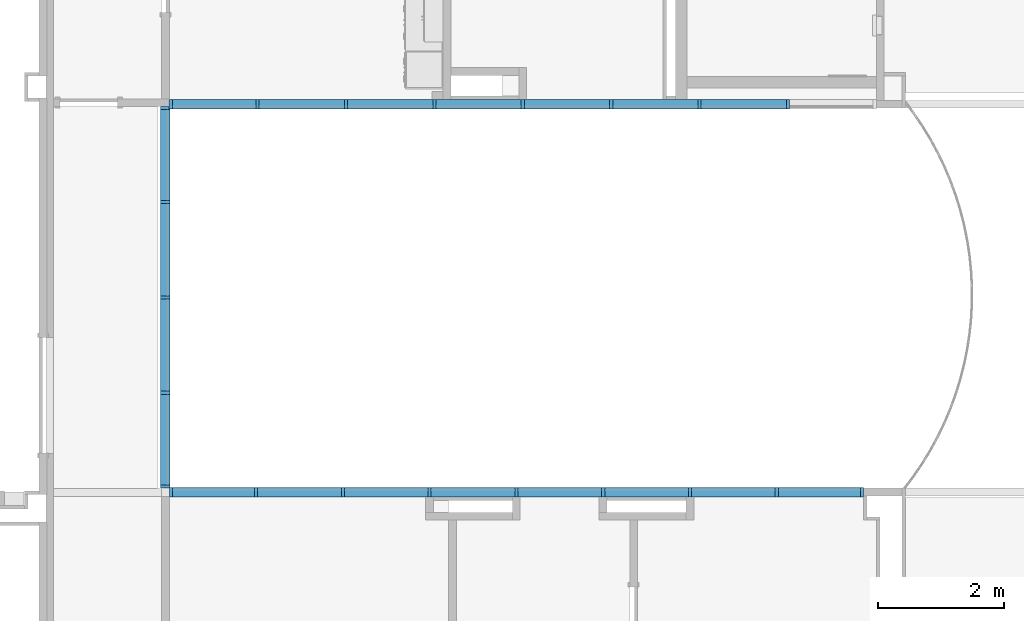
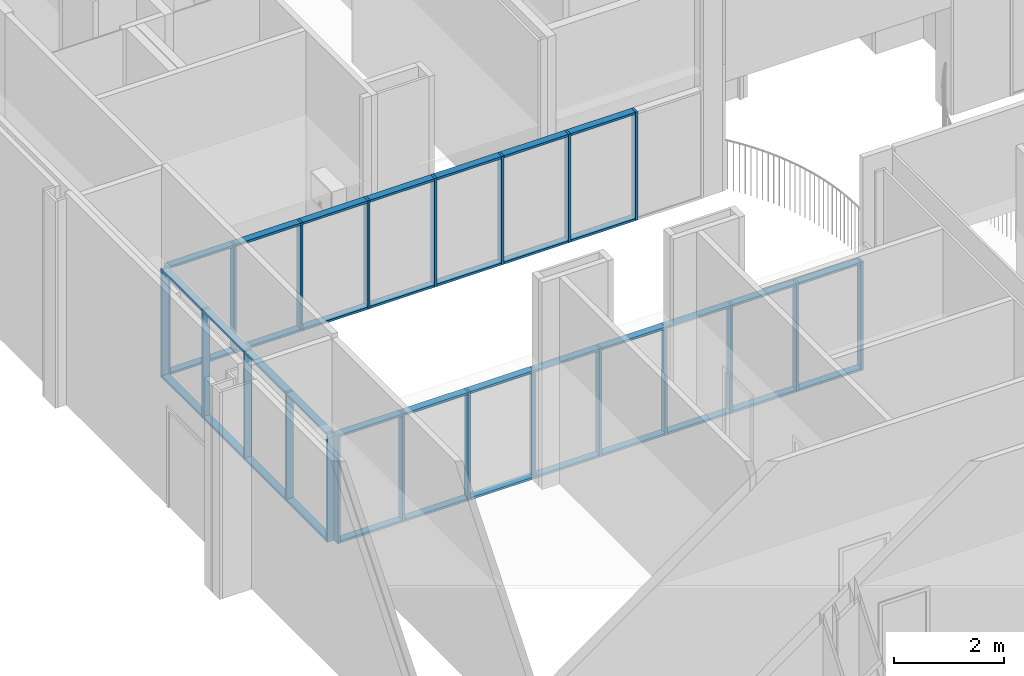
# One storey, part 1 of 45: 60 members, 3 elements without a shape of their own.
"""IFC2X3 building model written with IfcOpenShell, lengths in metres."""

from ifc_helpers import new_model, entity, si_unit, converted_unit, frame, origin, origin_2d_with_axis, place, context, project, spatial, rectangle, extrude, source, transform, mapped, material, type_object, type_shapes, element, aggregate, save


model = new_model("IFC2X3")

# Units and contexts
model_context = context("Model", 3, precision=1e-09, world=origin())
plan_context = context("Plan", 3, precision=1e-09, world=origin())
ifc_project = project(units=[si_unit("LENGTHUNIT", "METRE"), si_unit("AREAUNIT", "SQUARE_METRE"), si_unit("VOLUMEUNIT", "CUBIC_METRE"), converted_unit("PLANEANGLEUNIT", "DEGREE", entity("IfcRatioMeasure", 0.01745329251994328), si_unit("PLANEANGLEUNIT", "RADIAN"), dimensions=[0, 0, 0, 0, 0, 0, 0]), si_unit("TIMEUNIT", "SECOND")], contexts=[model_context, plan_context])

# Site, building, storey
site_placement = place(None, origin())
site = spatial("IfcSite", under=ifc_project, at=site_placement, Name="Default", CompositionType="ELEMENT")
building_placement = place(site_placement, origin())
building = spatial("IfcBuilding", under=site, at=building_placement, CompositionType="ELEMENT")
storey_placement = place(building_placement, frame((0.0, 0.0, 4.570000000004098)))
storey = spatial("IfcBuildingStorey", under=building, at=storey_placement, Name="Second Floor", CompositionType="ELEMENT", Elevation=4.570000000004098)

# Curtain wall, members
curtain_wall_1_placement = place(storey_placement, origin())
curtain_wall_1 = element("IfcCurtainWall", 1, at=curtain_wall_1_placement, inside=storey, Name="Curtain Wall:Storefront", ObjectType="Curtain Wall:Storefront")
ifc_material = material(Name="Metal - Aluminium")
member_type_1 = type_object("IfcMemberType", Name="50 x 150mm", PredefinedType="MULLION")
shared_shape_1 = source(origin(), model_context, "Body", "SweptSolid", [
    extrude(rectangle(XDim=0.05, YDim=0.15, at=origin_2d_with_axis()), frame((0.0, 0.0, -2.399999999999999), z_axis=(0.0, 0.0, 1.0), x_axis=(-1.0, 0.0, 0.0)), (0.0, 0.0, 1.0), 2.399999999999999),
])
type_shapes(member_type_1, [shared_shape_1])
member_1_placement = place(storey_placement, frame((-25.88950000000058, 34.77180159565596, 0.0), z_axis=(0.0, 0.0, -1.0), x_axis=(-1.0, 0.0, 0.0)))
member_1 = element("IfcMember", 2, at=member_1_placement, type_object=member_type_1, material=ifc_material, Name="Rectangular Mullion:50 x 150mm:50 x 150mm", ObjectType="50 x 150mm", context=model_context, shape_type="MappedRepresentation", body=[
    mapped(shared_shape_1, transform((0.0, 0.0, 0.0), scale=1.0)),
])
member_2_placement = place(storey_placement, frame((-30.0891250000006, 34.77180159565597, 0.0), z_axis=(0.0, 0.0, -1.0), x_axis=(-1.0, 0.0, 0.0)))
member_2 = element("IfcMember", 3, at=member_2_placement, type_object=member_type_1, material=ifc_material, Name="Rectangular Mullion:50 x 150mm:50 x 150mm", ObjectType="50 x 150mm", context=model_context, shape_type="MappedRepresentation", body=[
    mapped(shared_shape_1, transform((0.0, 0.0, 0.0), scale=1.0)),
])
member_3_placement = place(storey_placement, frame((-21.68987500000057, 34.77180159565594, 0.0), z_axis=(0.0, 0.0, -1.0), x_axis=(-1.0, 0.0, 0.0)))
member_3 = element("IfcMember", 4, at=member_3_placement, type_object=member_type_1, material=ifc_material, Name="Rectangular Mullion:50 x 150mm:50 x 150mm", ObjectType="50 x 150mm", context=model_context, shape_type="MappedRepresentation", body=[
    mapped(shared_shape_1, transform((0.0, 0.0, 0.0), scale=1.0)),
])
member_4_placement = place(storey_placement, frame((-27.28937500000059, 34.77180159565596, 0.0), z_axis=(0.0, 0.0, -1.0), x_axis=(-1.0, 0.0, 0.0)))
member_4 = element("IfcMember", 5, at=member_4_placement, type_object=member_type_1, material=ifc_material, Name="Rectangular Mullion:50 x 150mm:50 x 150mm", ObjectType="50 x 150mm", context=model_context, shape_type="MappedRepresentation", body=[
    mapped(shared_shape_1, transform((0.0, 0.0, 0.0), scale=1.0)),
])
member_5_placement = place(storey_placement, frame((-24.48962500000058, 34.77180159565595, 0.0), z_axis=(0.0, 0.0, -1.0), x_axis=(-1.0, 0.0, 0.0)))
member_5 = element("IfcMember", 6, at=member_5_placement, type_object=member_type_1, material=ifc_material, Name="Rectangular Mullion:50 x 150mm:50 x 150mm", ObjectType="50 x 150mm", context=model_context, shape_type="MappedRepresentation", body=[
    mapped(shared_shape_1, transform((0.0, 0.0, 0.0), scale=1.0)),
])
member_6_placement = place(storey_placement, frame((-23.08975000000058, 34.77180159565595, 0.0), z_axis=(0.0, 0.0, -1.0), x_axis=(-1.0, 0.0, 0.0)))
member_6 = element("IfcMember", 7, at=member_6_placement, type_object=member_type_1, material=ifc_material, Name="Rectangular Mullion:50 x 150mm:50 x 150mm", ObjectType="50 x 150mm", context=model_context, shape_type="MappedRepresentation", body=[
    mapped(shared_shape_1, transform((0.0, 0.0, 0.0), scale=1.0)),
])
member_7_placement = place(storey_placement, frame((-28.6892500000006, 34.77180159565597, 0.0), z_axis=(0.0, 0.0, -1.0), x_axis=(-1.0, 0.0, 0.0)))
member_7 = element("IfcMember", 8, at=member_7_placement, type_object=member_type_1, material=ifc_material, Name="Rectangular Mullion:50 x 150mm:50 x 150mm", ObjectType="50 x 150mm", context=model_context, shape_type="MappedRepresentation", body=[
    mapped(shared_shape_1, transform((0.0, 0.0, 0.0), scale=1.0)),
])

# Curtain wall, member
curtain_wall_2_placement = place(storey_placement, origin())
curtain_wall_2 = element("IfcCurtainWall", 9, at=curtain_wall_2_placement, inside=storey, Name="Curtain Wall:Storefront", ObjectType="Curtain Wall:Storefront")
member_8_placement = place(storey_placement, frame((-31.55100000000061, 30.20123952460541, 0.0), z_axis=(0.0, 0.0, -1.0), x_axis=(0.0, -1.0, 0.0)))
member_8 = element("IfcMember", 10, at=member_8_placement, type_object=member_type_1, material=ifc_material, Name="Rectangular Mullion:50 x 150mm:50 x 150mm", ObjectType="50 x 150mm", context=model_context, shape_type="MappedRepresentation", body=[
    mapped(shared_shape_1, transform((0.0, 0.0, 0.0), scale=1.0)),
])

# Curtain wall, members
curtain_wall_3_placement = place(storey_placement, origin())
curtain_wall_3 = element("IfcCurtainWall", 11, at=curtain_wall_3_placement, inside=storey, Name="Curtain Wall:Storefront", ObjectType="Curtain Wall:Storefront")
member_type_2 = type_object("IfcMemberType", Name="50 x 150mm", PredefinedType="MULLION")
type_shapes(member_type_2, [shared_shape_1])
member_9_placement = place(storey_placement, frame((-25.99050000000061, 28.62819840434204, 0.0), z_axis=(0.0, 0.0, -1.0), x_axis=(-1.0, 0.0, 0.0)))
member_9 = element("IfcMember", 12, at=member_9_placement, type_object=member_type_2, material=ifc_material, Name="Rectangular Mullion:50 x 150mm:50 x 150mm", ObjectType="50 x 150mm", context=model_context, shape_type="MappedRepresentation", body=[
    mapped(shared_shape_1, transform((0.0, 0.0, 0.0), scale=1.0)),
])
member_10_placement = place(storey_placement, frame((-30.11212500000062, 28.62819840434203, 0.0), z_axis=(0.0, 0.0, -1.0), x_axis=(-1.0, 0.0, 0.0)))
member_10 = element("IfcMember", 13, at=member_10_placement, type_object=member_type_2, material=ifc_material, Name="Rectangular Mullion:50 x 150mm:50 x 150mm", ObjectType="50 x 150mm", context=model_context, shape_type="MappedRepresentation", body=[
    mapped(shared_shape_1, transform((0.0, 0.0, 0.0), scale=1.0)),
])
member_11_placement = place(storey_placement, frame((-24.61662500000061, 28.62819840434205, 0.0), z_axis=(0.0, 0.0, -1.0), x_axis=(-1.0, 0.0, 0.0)))
member_11 = element("IfcMember", 14, at=member_11_placement, type_object=member_type_2, material=ifc_material, Name="Rectangular Mullion:50 x 150mm:50 x 150mm", ObjectType="50 x 150mm", context=model_context, shape_type="MappedRepresentation", body=[
    mapped(shared_shape_1, transform((0.0, 0.0, 0.0), scale=1.0)),
])

# Member
member_12_placement = place(storey_placement, frame((-31.55100000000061, 33.22332176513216, 0.0), z_axis=(0.0, 0.0, -1.0), x_axis=(0.0, -1.0, 0.0)))
member_12 = element("IfcMember", 15, at=member_12_placement, type_object=member_type_1, material=ifc_material, Name="Rectangular Mullion:50 x 150mm:50 x 150mm", ObjectType="50 x 150mm", context=model_context, shape_type="MappedRepresentation", body=[
    mapped(shared_shape_1, transform((0.0, 0.0, 0.0), scale=1.0)),
])

member_13_placement = place(storey_placement, frame((-21.86887500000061, 28.62819840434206, 0.0), z_axis=(0.0, 0.0, -1.0), x_axis=(-1.0, 0.0, 0.0)))
member_13 = element("IfcMember", 16, at=member_13_placement, type_object=member_type_2, material=ifc_material, Name="Rectangular Mullion:50 x 150mm:50 x 150mm", ObjectType="50 x 150mm", context=model_context, shape_type="MappedRepresentation", body=[
    mapped(shared_shape_1, transform((0.0, 0.0, 0.0), scale=1.0)),
])

member_14_placement = place(storey_placement, frame((-27.36437500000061, 28.62819840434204, 0.0), z_axis=(0.0, 0.0, -1.0), x_axis=(-1.0, 0.0, 0.0)))
member_14 = element("IfcMember", 17, at=member_14_placement, type_object=member_type_2, material=ifc_material, Name="Rectangular Mullion:50 x 150mm:50 x 150mm", ObjectType="50 x 150mm", context=model_context, shape_type="MappedRepresentation", body=[
    mapped(shared_shape_1, transform((0.0, 0.0, 0.0), scale=1.0)),
])

member_15_placement = place(storey_placement, frame((-31.55100000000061, 31.71228064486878, 0.0), z_axis=(0.0, 0.0, -1.0), x_axis=(0.0, -1.0, 0.0)))
member_15 = element("IfcMember", 18, at=member_15_placement, type_object=member_type_1, material=ifc_material, Name="Rectangular Mullion:50 x 150mm:50 x 150mm", ObjectType="50 x 150mm", context=model_context, shape_type="MappedRepresentation", body=[
    mapped(shared_shape_1, transform((0.0, 0.0, 0.0), scale=1.0)),
])

member_16_placement = place(storey_placement, frame((-23.24275000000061, 28.62819840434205, 0.0), z_axis=(0.0, 0.0, -1.0), x_axis=(-1.0, 0.0, 0.0)))
member_16 = element("IfcMember", 19, at=member_16_placement, type_object=member_type_2, material=ifc_material, Name="Rectangular Mullion:50 x 150mm:50 x 150mm", ObjectType="50 x 150mm", context=model_context, shape_type="MappedRepresentation", body=[
    mapped(shared_shape_1, transform((0.0, 0.0, 0.0), scale=1.0)),
])

member_17_placement = place(storey_placement, frame((-28.73825000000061, 28.62819840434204, 0.0), z_axis=(0.0, 0.0, -1.0), x_axis=(-1.0, 0.0, 0.0)))
member_17 = element("IfcMember", 20, at=member_17_placement, type_object=member_type_2, material=ifc_material, Name="Rectangular Mullion:50 x 150mm:50 x 150mm", ObjectType="50 x 150mm", context=model_context, shape_type="MappedRepresentation", body=[
    mapped(shared_shape_1, transform((0.0, 0.0, 0.0), scale=1.0)),
])

member_type_3 = type_object("IfcMemberType", Name="50 x 150mm", PredefinedType="MULLION")
shared_shape_2 = source(origin(), model_context, "Body", "SweptSolid", [
    extrude(rectangle(XDim=0.05, YDim=0.15, at=origin_2d_with_axis()), frame((-0.025, 0.0, -2.399999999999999), z_axis=(0.0, 0.0, 1.0), x_axis=(-1.0, 0.0, 0.0)), (0.0, 0.0, 1.0), 2.399999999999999),
])
type_shapes(member_type_3, [shared_shape_2])
member_18_placement = place(storey_placement, frame((-31.55100000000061, 28.69019840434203, 0.0), z_axis=(0.0, 0.0, -1.0), x_axis=(0.0, -1.0, 0.0)))
member_18 = element("IfcMember", 21, at=member_18_placement, type_object=member_type_3, material=ifc_material, Name="Rectangular Mullion:50 x 150mm:50 x 150mm", ObjectType="50 x 150mm", context=model_context, shape_type="MappedRepresentation", body=[
    mapped(shared_shape_2, transform((0.0, 0.0, 0.0), scale=1.0)),
])

member_19_placement = place(storey_placement, frame((-31.48900000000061, 34.77180159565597, 0.0), z_axis=(0.0, 0.0, -1.0), x_axis=(-1.0, 0.0, 0.0)))
member_19 = element("IfcMember", 22, at=member_19_placement, type_object=member_type_3, material=ifc_material, Name="Rectangular Mullion:50 x 150mm:50 x 150mm", ObjectType="50 x 150mm", context=model_context, shape_type="MappedRepresentation", body=[
    mapped(shared_shape_2, transform((0.0, 0.0, 0.0), scale=1.0)),
])

member_type_4 = type_object("IfcMemberType", Name="50 x 150mm", PredefinedType="MULLION")
type_shapes(member_type_4, [shared_shape_2])
member_20_placement = place(storey_placement, frame((-20.49500000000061, 28.62819840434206, 2.399999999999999)))
member_20 = element("IfcMember", 23, at=member_20_placement, type_object=member_type_4, material=ifc_material, Name="Rectangular Mullion:50 x 150mm:50 x 150mm", ObjectType="50 x 150mm", context=model_context, shape_type="MappedRepresentation", body=[
    mapped(shared_shape_2, transform((0.0, 0.0, 0.0), scale=1.0)),
])

member_type_5 = type_object("IfcMemberType", Name="50 x 150mm", PredefinedType="MULLION")
type_shapes(member_type_5, [shared_shape_2])
member_21_placement = place(storey_placement, frame((-31.48600000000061, 28.62819840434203, 0.0), z_axis=(0.0, 0.0, -1.0), x_axis=(-1.0, 0.0, 0.0)))
member_21 = element("IfcMember", 24, at=member_21_placement, type_object=member_type_5, material=ifc_material, Name="Rectangular Mullion:50 x 150mm:50 x 150mm", ObjectType="50 x 150mm", context=model_context, shape_type="MappedRepresentation", body=[
    mapped(shared_shape_2, transform((0.0, 0.0, 0.0), scale=1.0)),
])

member_type_6 = type_object("IfcMemberType", Name="50 x 150mm", PredefinedType="MULLION")
shared_shape_3 = source(origin(), model_context, "Body", "SweptSolid", [
    extrude(rectangle(XDim=0.05, YDim=0.15, at=origin_2d_with_axis()), frame((-0.025, 0.0, -1.323875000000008), z_axis=(0.0, 0.0, 1.0), x_axis=(-1.0, 0.0, 0.0)), (0.0, 0.0, 1.0), 1.323875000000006),
])
type_shapes(member_type_6, [shared_shape_3])
member_22_placement = place(storey_placement, frame((-27.38937500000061, 28.62819840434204, 0.0), z_axis=(1.0, 0.0, 0.0), x_axis=(0.0, 0.0, -1.0)))
member_22 = element("IfcMember", 25, at=member_22_placement, type_object=member_type_6, material=ifc_material, Name="Rectangular Mullion:50 x 150mm:50 x 150mm", ObjectType="50 x 150mm", context=model_context, shape_type="MappedRepresentation", body=[
    mapped(shared_shape_3, transform((0.0, 0.0, 0.0), scale=1.0)),
])

member_23_placement = place(storey_placement, frame((-23.26775000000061, 28.62819840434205, 0.0), z_axis=(1.0, 0.0, 0.0), x_axis=(0.0, 0.0, -1.0)))
member_23 = element("IfcMember", 26, at=member_23_placement, type_object=member_type_6, material=ifc_material, Name="Rectangular Mullion:50 x 150mm:50 x 150mm", ObjectType="50 x 150mm", context=model_context, shape_type="MappedRepresentation", body=[
    mapped(shared_shape_3, transform((0.0, 0.0, 0.0), scale=1.0)),
])

member_24_placement = place(storey_placement, frame((-26.0155000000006, 28.62819840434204, 0.0), z_axis=(1.0, 0.0, 0.0), x_axis=(0.0, 0.0, -1.0)))
member_24 = element("IfcMember", 27, at=member_24_placement, type_object=member_type_6, material=ifc_material, Name="Rectangular Mullion:50 x 150mm:50 x 150mm", ObjectType="50 x 150mm", context=model_context, shape_type="MappedRepresentation", body=[
    mapped(shared_shape_3, transform((0.0, 0.0, 0.0), scale=1.0)),
])

member_25_placement = place(storey_placement, frame((-28.76325000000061, 28.62819840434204, 0.0), z_axis=(1.0, 0.0, 0.0), x_axis=(0.0, 0.0, -1.0)))
member_25 = element("IfcMember", 28, at=member_25_placement, type_object=member_type_6, material=ifc_material, Name="Rectangular Mullion:50 x 150mm:50 x 150mm", ObjectType="50 x 150mm", context=model_context, shape_type="MappedRepresentation", body=[
    mapped(shared_shape_3, transform((0.0, 0.0, 0.0), scale=1.0)),
])

member_26_placement = place(storey_placement, frame((-21.89387500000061, 28.62819840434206, 0.0), z_axis=(1.0, 0.0, 0.0), x_axis=(0.0, 0.0, -1.0)))
member_26 = element("IfcMember", 29, at=member_26_placement, type_object=member_type_6, material=ifc_material, Name="Rectangular Mullion:50 x 150mm:50 x 150mm", ObjectType="50 x 150mm", context=model_context, shape_type="MappedRepresentation", body=[
    mapped(shared_shape_3, transform((0.0, 0.0, 0.0), scale=1.0)),
])

member_27_placement = place(storey_placement, frame((-24.64162500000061, 28.62819840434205, 0.0), z_axis=(1.0, 0.0, 0.0), x_axis=(0.0, 0.0, -1.0)))
member_27 = element("IfcMember", 30, at=member_27_placement, type_object=member_type_6, material=ifc_material, Name="Rectangular Mullion:50 x 150mm:50 x 150mm", ObjectType="50 x 150mm", context=model_context, shape_type="MappedRepresentation", body=[
    mapped(shared_shape_3, transform((0.0, 0.0, 0.0), scale=1.0)),
])

member_type_7 = type_object("IfcMemberType", Name="50 x 150mm", PredefinedType="MULLION")
shared_shape_4 = source(origin(), model_context, "Body", "SweptSolid", [
    extrude(rectangle(XDim=0.05, YDim=0.15, at=origin_2d_with_axis()), frame((-0.025, 0.0, -1.323875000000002), z_axis=(0.0, 0.0, 1.0), x_axis=(-1.0, 0.0, 0.0)), (0.0, 0.0, 1.0), 1.323875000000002),
])
type_shapes(member_type_7, [shared_shape_4])
member_28_placement = place(storey_placement, frame((-27.33937500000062, 28.62819840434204, 2.399999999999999), z_axis=(-1.0, 0.0, 0.0), x_axis=(0.0, 0.0, 1.0)))
member_28 = element("IfcMember", 31, at=member_28_placement, type_object=member_type_7, material=ifc_material, Name="Rectangular Mullion:50 x 150mm:50 x 150mm", ObjectType="50 x 150mm", context=model_context, shape_type="MappedRepresentation", body=[
    mapped(shared_shape_4, transform((0.0, 0.0, 0.0), scale=1.0)),
])

member_29_placement = place(storey_placement, frame((-28.71325000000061, 28.62819840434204, 2.399999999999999), z_axis=(-1.0, 0.0, 0.0), x_axis=(0.0, 0.0, 1.0)))
member_29 = element("IfcMember", 32, at=member_29_placement, type_object=member_type_7, material=ifc_material, Name="Rectangular Mullion:50 x 150mm:50 x 150mm", ObjectType="50 x 150mm", context=model_context, shape_type="MappedRepresentation", body=[
    mapped(shared_shape_4, transform((0.0, 0.0, 0.0), scale=1.0)),
])

member_30_placement = place(storey_placement, frame((-25.96550000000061, 28.62819840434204, 2.399999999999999), z_axis=(-1.0, 0.0, 0.0), x_axis=(0.0, 0.0, 1.0)))
member_30 = element("IfcMember", 33, at=member_30_placement, type_object=member_type_7, material=ifc_material, Name="Rectangular Mullion:50 x 150mm:50 x 150mm", ObjectType="50 x 150mm", context=model_context, shape_type="MappedRepresentation", body=[
    mapped(shared_shape_4, transform((0.0, 0.0, 0.0), scale=1.0)),
])

member_31_placement = place(storey_placement, frame((-23.21775000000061, 28.62819840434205, 2.399999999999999), z_axis=(-1.0, 0.0, 0.0), x_axis=(0.0, 0.0, 1.0)))
member_31 = element("IfcMember", 34, at=member_31_placement, type_object=member_type_7, material=ifc_material, Name="Rectangular Mullion:50 x 150mm:50 x 150mm", ObjectType="50 x 150mm", context=model_context, shape_type="MappedRepresentation", body=[
    mapped(shared_shape_4, transform((0.0, 0.0, 0.0), scale=1.0)),
])

member_32_placement = place(storey_placement, frame((-30.08712500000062, 28.62819840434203, 2.399999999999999), z_axis=(-1.0, 0.0, 0.0), x_axis=(0.0, 0.0, 1.0)))
member_32 = element("IfcMember", 35, at=member_32_placement, type_object=member_type_7, material=ifc_material, Name="Rectangular Mullion:50 x 150mm:50 x 150mm", ObjectType="50 x 150mm", context=model_context, shape_type="MappedRepresentation", body=[
    mapped(shared_shape_4, transform((0.0, 0.0, 0.0), scale=1.0)),
])

member_33_placement = place(storey_placement, frame((-24.59162500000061, 28.62819840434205, 2.399999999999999), z_axis=(-1.0, 0.0, 0.0), x_axis=(0.0, 0.0, 1.0)))
member_33 = element("IfcMember", 36, at=member_33_placement, type_object=member_type_7, material=ifc_material, Name="Rectangular Mullion:50 x 150mm:50 x 150mm", ObjectType="50 x 150mm", context=model_context, shape_type="MappedRepresentation", body=[
    mapped(shared_shape_4, transform((0.0, 0.0, 0.0), scale=1.0)),
])

member_type_8 = type_object("IfcMemberType", Name="50 x 150mm", PredefinedType="MULLION")
shared_shape_5 = source(origin(), model_context, "Body", "SweptSolid", [
    extrude(rectangle(XDim=0.05, YDim=0.15, at=origin_2d_with_axis()), frame((-0.025, 0.0, -1.349875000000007), z_axis=(0.0, 0.0, 1.0), x_axis=(-1.0, 0.0, 0.0)), (0.0, 0.0, 1.0), 1.349875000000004),
])
type_shapes(member_type_8, [shared_shape_5])
member_34_placement = place(storey_placement, frame((-23.06475000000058, 34.77180159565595, 2.399999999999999), z_axis=(-1.0, 0.0, 0.0), x_axis=(0.0, 0.0, 1.0)))
member_34 = element("IfcMember", 37, at=member_34_placement, type_object=member_type_8, material=ifc_material, Name="Rectangular Mullion:50 x 150mm:50 x 150mm", ObjectType="50 x 150mm", context=model_context, shape_type="MappedRepresentation", body=[
    mapped(shared_shape_5, transform((0.0, 0.0, 0.0), scale=1.0)),
])

member_35_placement = place(storey_placement, frame((-24.46462500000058, 34.77180159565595, 2.399999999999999), z_axis=(-1.0, 0.0, 0.0), x_axis=(0.0, 0.0, 1.0)))
member_35 = element("IfcMember", 38, at=member_35_placement, type_object=member_type_8, material=ifc_material, Name="Rectangular Mullion:50 x 150mm:50 x 150mm", ObjectType="50 x 150mm", context=model_context, shape_type="MappedRepresentation", body=[
    mapped(shared_shape_5, transform((0.0, 0.0, 0.0), scale=1.0)),
])

member_36_placement = place(storey_placement, frame((-25.86450000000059, 34.77180159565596, 2.399999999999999), z_axis=(-1.0, 0.0, 0.0), x_axis=(0.0, 0.0, 1.0)))
member_36 = element("IfcMember", 39, at=member_36_placement, type_object=member_type_8, material=ifc_material, Name="Rectangular Mullion:50 x 150mm:50 x 150mm", ObjectType="50 x 150mm", context=model_context, shape_type="MappedRepresentation", body=[
    mapped(shared_shape_5, transform((0.0, 0.0, 0.0), scale=1.0)),
])

member_37_placement = place(storey_placement, frame((-28.6642500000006, 34.77180159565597, 2.399999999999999), z_axis=(-1.0, 0.0, 0.0), x_axis=(0.0, 0.0, 1.0)))
member_37 = element("IfcMember", 40, at=member_37_placement, type_object=member_type_8, material=ifc_material, Name="Rectangular Mullion:50 x 150mm:50 x 150mm", ObjectType="50 x 150mm", context=model_context, shape_type="MappedRepresentation", body=[
    mapped(shared_shape_5, transform((0.0, 0.0, 0.0), scale=1.0)),
])

member_38_placement = place(storey_placement, frame((-30.0641250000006, 34.77180159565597, 2.399999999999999), z_axis=(-1.0, 0.0, 0.0), x_axis=(0.0, 0.0, 1.0)))
member_38 = element("IfcMember", 41, at=member_38_placement, type_object=member_type_8, material=ifc_material, Name="Rectangular Mullion:50 x 150mm:50 x 150mm", ObjectType="50 x 150mm", context=model_context, shape_type="MappedRepresentation", body=[
    mapped(shared_shape_5, transform((0.0, 0.0, 0.0), scale=1.0)),
])

member_39_placement = place(storey_placement, frame((-27.26437500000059, 34.77180159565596, 2.399999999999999), z_axis=(-1.0, 0.0, 0.0), x_axis=(0.0, 0.0, 1.0)))
member_39 = element("IfcMember", 42, at=member_39_placement, type_object=member_type_8, material=ifc_material, Name="Rectangular Mullion:50 x 150mm:50 x 150mm", ObjectType="50 x 150mm", context=model_context, shape_type="MappedRepresentation", body=[
    mapped(shared_shape_5, transform((0.0, 0.0, 0.0), scale=1.0)),
])

member_type_9 = type_object("IfcMemberType", Name="50 x 150mm", PredefinedType="MULLION")
shared_shape_6 = source(origin(), model_context, "Body", "SweptSolid", [
    extrude(rectangle(XDim=0.05, YDim=0.15, at=origin_2d_with_axis()), frame((-0.025, 0.0, -1.349875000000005), z_axis=(0.0, 0.0, 1.0), x_axis=(-1.0, 0.0, 0.0)), (0.0, 0.0, 1.0), 1.349875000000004),
])
type_shapes(member_type_9, [shared_shape_6])
member_40_placement = place(storey_placement, frame((-28.71425000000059, 34.77180159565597, 0.0), z_axis=(1.0, 0.0, 0.0), x_axis=(0.0, 0.0, -1.0)))
member_40 = element("IfcMember", 43, at=member_40_placement, type_object=member_type_9, material=ifc_material, Name="Rectangular Mullion:50 x 150mm:50 x 150mm", ObjectType="50 x 150mm", context=model_context, shape_type="MappedRepresentation", body=[
    mapped(shared_shape_6, transform((0.0, 0.0, 0.0), scale=1.0)),
])

member_41_placement = place(storey_placement, frame((-23.11475000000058, 34.77180159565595, 0.0), z_axis=(1.0, 0.0, 0.0), x_axis=(0.0, 0.0, -1.0)))
member_41 = element("IfcMember", 44, at=member_41_placement, type_object=member_type_9, material=ifc_material, Name="Rectangular Mullion:50 x 150mm:50 x 150mm", ObjectType="50 x 150mm", context=model_context, shape_type="MappedRepresentation", body=[
    mapped(shared_shape_6, transform((0.0, 0.0, 0.0), scale=1.0)),
])

member_42_placement = place(storey_placement, frame((-27.31437500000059, 34.77180159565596, 0.0), z_axis=(1.0, 0.0, 0.0), x_axis=(0.0, 0.0, -1.0)))
member_42 = element("IfcMember", 45, at=member_42_placement, type_object=member_type_9, material=ifc_material, Name="Rectangular Mullion:50 x 150mm:50 x 150mm", ObjectType="50 x 150mm", context=model_context, shape_type="MappedRepresentation", body=[
    mapped(shared_shape_6, transform((0.0, 0.0, 0.0), scale=1.0)),
])

member_43_placement = place(storey_placement, frame((-24.51462500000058, 34.77180159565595, 0.0), z_axis=(1.0, 0.0, 0.0), x_axis=(0.0, 0.0, -1.0)))
member_43 = element("IfcMember", 46, at=member_43_placement, type_object=member_type_9, material=ifc_material, Name="Rectangular Mullion:50 x 150mm:50 x 150mm", ObjectType="50 x 150mm", context=model_context, shape_type="MappedRepresentation", body=[
    mapped(shared_shape_6, transform((0.0, 0.0, 0.0), scale=1.0)),
])

member_44_placement = place(storey_placement, frame((-25.91450000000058, 34.77180159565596, 0.0), z_axis=(1.0, 0.0, 0.0), x_axis=(0.0, 0.0, -1.0)))
member_44 = element("IfcMember", 47, at=member_44_placement, type_object=member_type_9, material=ifc_material, Name="Rectangular Mullion:50 x 150mm:50 x 150mm", ObjectType="50 x 150mm", context=model_context, shape_type="MappedRepresentation", body=[
    mapped(shared_shape_6, transform((0.0, 0.0, 0.0), scale=1.0)),
])

member_45_placement = place(storey_placement, frame((-21.71487500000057, 34.77180159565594, 0.0), z_axis=(1.0, 0.0, 0.0), x_axis=(0.0, 0.0, -1.0)))
member_45 = element("IfcMember", 48, at=member_45_placement, type_object=member_type_9, material=ifc_material, Name="Rectangular Mullion:50 x 150mm:50 x 150mm", ObjectType="50 x 150mm", context=model_context, shape_type="MappedRepresentation", body=[
    mapped(shared_shape_6, transform((0.0, 0.0, 0.0), scale=1.0)),
])

member_type_10 = type_object("IfcMemberType", Name="50 x 150mm", PredefinedType="MULLION")
shared_shape_7 = source(origin(), model_context, "Body", "SweptSolid", [
    extrude(rectangle(XDim=0.05, YDim=0.15, at=origin_2d_with_axis()), frame((-0.025, 0.0, -1.461041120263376), z_axis=(0.0, 0.0, 1.0), x_axis=(-1.0, 0.0, 0.0)), (0.0, 0.0, 1.0), 1.461041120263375),
])
type_shapes(member_type_10, [shared_shape_7])
member_46_placement = place(storey_placement, frame((-31.55100000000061, 31.73728064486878, 2.399999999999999), z_axis=(0.0, -1.0, 0.0), x_axis=(0.0, 0.0, 1.0)))
member_46 = element("IfcMember", 49, at=member_46_placement, type_object=member_type_10, material=ifc_material, Name="Rectangular Mullion:50 x 150mm:50 x 150mm", ObjectType="50 x 150mm", context=model_context, shape_type="MappedRepresentation", body=[
    mapped(shared_shape_7, transform((0.0, 0.0, 0.0), scale=1.0)),
])

member_type_11 = type_object("IfcMemberType", Name="50 x 150mm", PredefinedType="MULLION")
type_shapes(member_type_11, [shared_shape_7])
member_47_placement = place(storey_placement, frame((-31.55100000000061, 31.68728064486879, 0.0), z_axis=(0.0, 1.0, 0.0), x_axis=(0.0, 0.0, -1.0)))
member_47 = element("IfcMember", 50, at=member_47_placement, type_object=member_type_11, material=ifc_material, Name="Rectangular Mullion:50 x 150mm:50 x 150mm", ObjectType="50 x 150mm", context=model_context, shape_type="MappedRepresentation", body=[
    mapped(shared_shape_7, transform((0.0, 0.0, 0.0), scale=1.0)),
])

member_48_placement = place(storey_placement, frame((-31.55100000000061, 33.19832176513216, 0.0), z_axis=(0.0, 1.0, 0.0), x_axis=(0.0, 0.0, -1.0)))
member_48 = element("IfcMember", 51, at=member_48_placement, type_object=member_type_11, material=ifc_material, Name="Rectangular Mullion:50 x 150mm:50 x 150mm", ObjectType="50 x 150mm", context=model_context, shape_type="MappedRepresentation", body=[
    mapped(shared_shape_7, transform((0.0, 0.0, 0.0), scale=1.0)),
])

member_49_placement = place(storey_placement, frame((-31.55100000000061, 30.2262395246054, 2.399999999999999), z_axis=(0.0, -1.0, 0.0), x_axis=(0.0, 0.0, 1.0)))
member_49 = element("IfcMember", 52, at=member_49_placement, type_object=member_type_10, material=ifc_material, Name="Rectangular Mullion:50 x 150mm:50 x 150mm", ObjectType="50 x 150mm", context=model_context, shape_type="MappedRepresentation", body=[
    mapped(shared_shape_7, transform((0.0, 0.0, 0.0), scale=1.0)),
])

member_type_12 = type_object("IfcMemberType", Name="50 x 150mm", PredefinedType="MULLION")
shared_shape_8 = source(origin(), model_context, "Body", "SweptSolid", [
    extrude(rectangle(XDim=0.05, YDim=0.15, at=origin_2d_with_axis()), frame((-0.025, 0.0, -1.436041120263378), z_axis=(0.0, 0.0, 1.0), x_axis=(-1.0, 0.0, 0.0)), (0.0, 0.0, 1.0), 1.436041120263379),
])
type_shapes(member_type_12, [shared_shape_8])
member_50_placement = place(storey_placement, frame((-31.55100000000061, 28.74019840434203, 2.399999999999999), z_axis=(0.0, -1.0, 0.0), x_axis=(0.0, 0.0, 1.0)))
member_50 = element("IfcMember", 53, at=member_50_placement, type_object=member_type_12, material=ifc_material, Name="Rectangular Mullion:50 x 150mm:50 x 150mm", ObjectType="50 x 150mm", context=model_context, shape_type="MappedRepresentation", body=[
    mapped(shared_shape_8, transform((0.0, 0.0, 0.0), scale=1.0)),
])

member_type_13 = type_object("IfcMemberType", Name="50 x 150mm", PredefinedType="MULLION")
type_shapes(member_type_13, [shared_shape_8])
member_51_placement = place(storey_placement, frame((-31.5510000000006, 34.68436288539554, 0.0), z_axis=(0.0, 1.0, 0.0), x_axis=(0.0, 0.0, -1.0)))
member_51 = element("IfcMember", 54, at=member_51_placement, type_object=member_type_13, material=ifc_material, Name="Rectangular Mullion:50 x 150mm:50 x 150mm", ObjectType="50 x 150mm", context=model_context, shape_type="MappedRepresentation", body=[
    mapped(shared_shape_8, transform((0.0, 0.0, 0.0), scale=1.0)),
])

member_52_placement = place(storey_placement, frame((-31.55100000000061, 33.24832176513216, 2.399999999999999), z_axis=(0.0, -1.0, 0.0), x_axis=(0.0, 0.0, 1.0)))
member_52 = element("IfcMember", 55, at=member_52_placement, type_object=member_type_12, material=ifc_material, Name="Rectangular Mullion:50 x 150mm:50 x 150mm", ObjectType="50 x 150mm", context=model_context, shape_type="MappedRepresentation", body=[
    mapped(shared_shape_8, transform((0.0, 0.0, 0.0), scale=1.0)),
])

member_53_placement = place(storey_placement, frame((-31.55100000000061, 30.17623952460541, 0.0), z_axis=(0.0, 1.0, 0.0), x_axis=(0.0, 0.0, -1.0)))
member_53 = element("IfcMember", 56, at=member_53_placement, type_object=member_type_13, material=ifc_material, Name="Rectangular Mullion:50 x 150mm:50 x 150mm", ObjectType="50 x 150mm", context=model_context, shape_type="MappedRepresentation", body=[
    mapped(shared_shape_8, transform((0.0, 0.0, 0.0), scale=1.0)),
])

member_type_14 = type_object("IfcMemberType", Name="50 x 150mm", PredefinedType="MULLION")
shared_shape_9 = source(origin(), model_context, "Body", "SweptSolid", [
    extrude(rectangle(XDim=0.05, YDim=0.15, at=origin_2d_with_axis()), frame((-0.025, 0.0, -2.399999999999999), z_axis=(0.0, 0.0, 1.0), x_axis=(-1.0, 0.0, 0.0)), (0.0, 0.0, 1.0), 2.399999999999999),
])
type_shapes(member_type_14, [shared_shape_9])
member_54_placement = place(storey_placement, frame((-31.5510000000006, 34.73436288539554, 2.399999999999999), z_axis=(0.0, 0.0, 1.0), x_axis=(0.0, 1.0, 0.0)))
member_54 = element("IfcMember", 57, at=member_54_placement, type_object=member_type_14, material=ifc_material, Name="Rectangular Mullion:50 x 150mm:50 x 150mm", ObjectType="50 x 150mm", context=model_context, shape_type="MappedRepresentation", body=[
    mapped(shared_shape_9, transform((0.0, 0.0, 0.0), scale=1.0)),
])

aggregate(curtain_wall_2, [member_50, member_18, member_51, member_52, member_54, member_8, member_46, member_47, member_12, member_53, member_15, member_48, member_49])

member_type_15 = type_object("IfcMemberType", Name="50 x 150mm", PredefinedType="MULLION")
shared_shape_10 = source(origin(), model_context, "Body", "SweptSolid", [
    extrude(rectangle(XDim=0.05, YDim=0.15, at=origin_2d_with_axis()), frame((-0.025, 0.0, -1.324875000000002), z_axis=(0.0, 0.0, 1.0), x_axis=(-1.0, 0.0, 0.0)), (0.0, 0.0, 1.0), 1.324875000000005),
])
type_shapes(member_type_15, [shared_shape_10])
member_55_placement = place(storey_placement, frame((-30.1141250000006, 34.77180159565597, 0.0), z_axis=(1.0, 0.0, 0.0), x_axis=(0.0, 0.0, -1.0)))
member_55 = element("IfcMember", 58, at=member_55_placement, type_object=member_type_15, material=ifc_material, Name="Rectangular Mullion:50 x 150mm:50 x 150mm", ObjectType="50 x 150mm", context=model_context, shape_type="MappedRepresentation", body=[
    mapped(shared_shape_10, transform((0.0, 0.0, 0.0), scale=1.0)),
])

member_type_16 = type_object("IfcMemberType", Name="50 x 150mm", PredefinedType="MULLION")
shared_shape_11 = source(origin(), model_context, "Body", "SweptSolid", [
    extrude(rectangle(XDim=0.05, YDim=0.15, at=origin_2d_with_axis()), frame((-0.025, 0.0, -1.324875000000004), z_axis=(0.0, 0.0, 1.0), x_axis=(-1.0, 0.0, 0.0)), (0.0, 0.0, 1.0), 1.324875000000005),
])
type_shapes(member_type_16, [shared_shape_11])
member_56_placement = place(storey_placement, frame((-31.4390000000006, 34.77180159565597, 2.399999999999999), z_axis=(-1.0, 0.0, 0.0), x_axis=(0.0, 0.0, 1.0)))
member_56 = element("IfcMember", 59, at=member_56_placement, type_object=member_type_16, material=ifc_material, Name="Rectangular Mullion:50 x 150mm:50 x 150mm", ObjectType="50 x 150mm", context=model_context, shape_type="MappedRepresentation", body=[
    mapped(shared_shape_11, transform((0.0, 0.0, 0.0), scale=1.0)),
])

aggregate(curtain_wall_1, [member_1, member_40, member_55, member_2, member_3, member_4, member_41, member_34, member_5, member_6, member_56, member_35, member_7, member_42, member_36, member_37, member_43, member_44, member_45, member_38, member_39, member_19])

member_type_17 = type_object("IfcMemberType", Name="50 x 150mm", PredefinedType="MULLION")
shared_shape_12 = source(origin(), model_context, "Body", "SweptSolid", [
    extrude(rectangle(XDim=0.05, YDim=0.15, at=origin_2d_with_axis()), frame((-0.025, 0.0, -1.298874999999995), z_axis=(0.0, 0.0, 1.0), x_axis=(-1.0, 0.0, 0.0)), (0.0, 0.0, 1.0), 1.298874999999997),
])
type_shapes(member_type_17, [shared_shape_12])
member_57_placement = place(storey_placement, frame((-31.43600000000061, 28.62819840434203, 2.399999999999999), z_axis=(-1.0, 0.0, 0.0), x_axis=(0.0, 0.0, 1.0)))
member_57 = element("IfcMember", 60, at=member_57_placement, type_object=member_type_17, material=ifc_material, Name="Rectangular Mullion:50 x 150mm:50 x 150mm", ObjectType="50 x 150mm", context=model_context, shape_type="MappedRepresentation", body=[
    mapped(shared_shape_12, transform((0.0, 0.0, 0.0), scale=1.0)),
])

member_58_placement = place(storey_placement, frame((-21.84387500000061, 28.62819840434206, 2.399999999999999), z_axis=(-1.0, 0.0, 0.0), x_axis=(0.0, 0.0, 1.0)))
member_58 = element("IfcMember", 61, at=member_58_placement, type_object=member_type_17, material=ifc_material, Name="Rectangular Mullion:50 x 150mm:50 x 150mm", ObjectType="50 x 150mm", context=model_context, shape_type="MappedRepresentation", body=[
    mapped(shared_shape_12, transform((0.0, 0.0, 0.0), scale=1.0)),
])

member_type_18 = type_object("IfcMemberType", Name="50 x 150mm", PredefinedType="MULLION")
shared_shape_13 = source(origin(), model_context, "Body", "SweptSolid", [
    extrude(rectangle(XDim=0.05, YDim=0.15, at=origin_2d_with_axis()), frame((-0.025, 0.0, -1.298875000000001), z_axis=(0.0, 0.0, 1.0), x_axis=(-1.0, 0.0, 0.0)), (0.0, 0.0, 1.0), 1.298875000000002),
])
type_shapes(member_type_18, [shared_shape_13])
member_59_placement = place(storey_placement, frame((-20.54500000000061, 28.62819840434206, 0.0), z_axis=(1.0, 0.0, 0.0), x_axis=(0.0, 0.0, -1.0)))
member_59 = element("IfcMember", 62, at=member_59_placement, type_object=member_type_18, material=ifc_material, Name="Rectangular Mullion:50 x 150mm:50 x 150mm", ObjectType="50 x 150mm", context=model_context, shape_type="MappedRepresentation", body=[
    mapped(shared_shape_13, transform((0.0, 0.0, 0.0), scale=1.0)),
])

member_60_placement = place(storey_placement, frame((-30.13712500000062, 28.62819840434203, 0.0), z_axis=(1.0, 0.0, 0.0), x_axis=(0.0, 0.0, -1.0)))
member_60 = element("IfcMember", 63, at=member_60_placement, type_object=member_type_18, material=ifc_material, Name="Rectangular Mullion:50 x 150mm:50 x 150mm", ObjectType="50 x 150mm", context=model_context, shape_type="MappedRepresentation", body=[
    mapped(shared_shape_13, transform((0.0, 0.0, 0.0), scale=1.0)),
])

aggregate(curtain_wall_3, [member_57, member_28, member_9, member_59, member_10, member_11, member_13, member_29, member_22, member_23, member_30, member_60, member_24, member_14, member_25, member_16, member_58, member_26, member_20, member_31, member_27, member_32, member_21, member_17, member_33])

save(model, "model.ifc")
